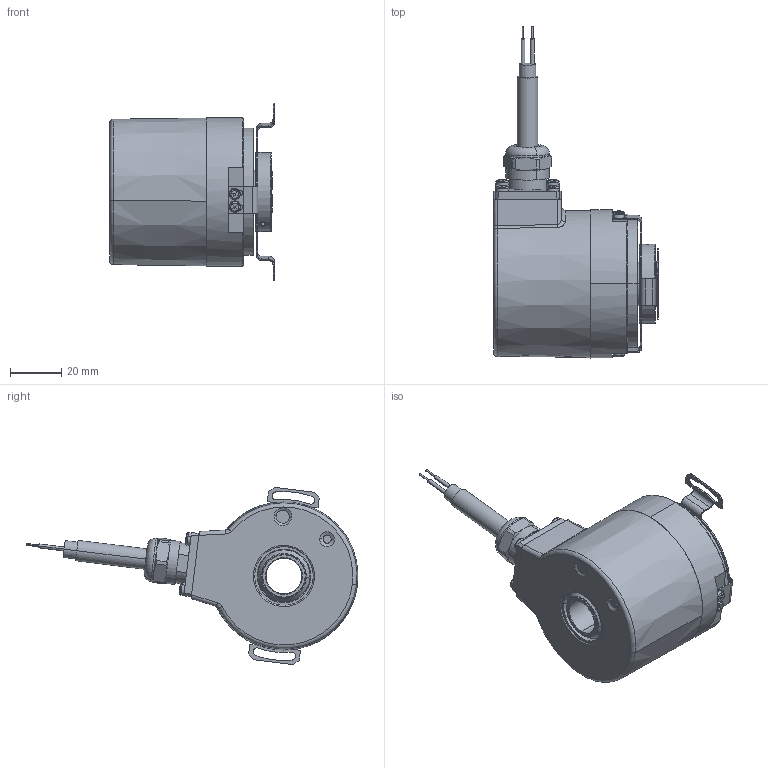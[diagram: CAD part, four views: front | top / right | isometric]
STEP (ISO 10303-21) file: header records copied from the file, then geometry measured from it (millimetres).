
FILE_DESCRIPTION (( 'STEP AP203' ), '1' );
FILE_NAME ('8.F5883.5522.G221.STEP', '2013-04-12T13:49:49', ( 'Hodot' ), ( '' ), 'SwSTEP 2.0', 'SolidWorks 2012', '' );
FILE_SCHEMA (( 'CONFIG_CONTROL_DESIGN' ));
Length unit declared in the file: millimetre
Products named in the file (1): 8.F5883.5522.G221
Bounding box: 64.47 x 129.99 x 69.44 mm (x, y, z)
Volume: 79047.2 mm3; surface area: 60025.9 mm2
Topology: 22 solids, 23 shells, 1135 faces, 2791 edges, 1705 vertices
Faces by surface type: plane 368, cylinder 365, cone 226, torus 103, sphere 49, bspline 24
Entity records: 35750 total; most frequent: CARTESIAN_POINT 9107, DIRECTION 5841, ORIENTED_EDGE 5360, EDGE_CURVE 2680, AXIS2_PLACEMENT_3D 2361, VERTEX_POINT 1669, EDGE_LOOP 1297, CIRCLE 1249
